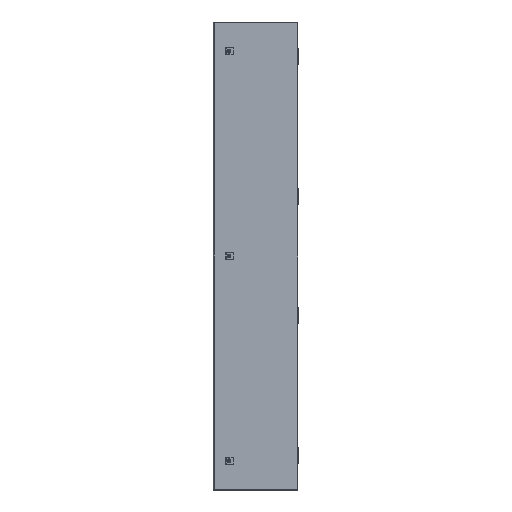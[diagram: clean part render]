
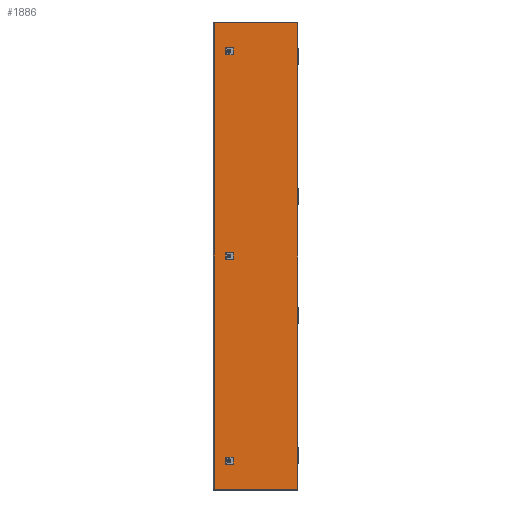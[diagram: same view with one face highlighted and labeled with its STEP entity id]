
A CAD part, left-side view. The second image highlights one B-rep face of the part: STEP entity #1886.
In plain terms, the highlighted planar face has unit normal (-1, 0, 0).
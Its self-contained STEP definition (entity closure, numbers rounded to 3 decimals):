
#1886=ADVANCED_FACE('',(#4623,#4625,#4627,#4629),#4631,.F.);
#4623=FACE_BOUND('',#4624,.T.);
#4624=EDGE_LOOP('',(#10432,#10433,#10434,#10435));
#4625=FACE_BOUND('',#4626,.T.);
#4626=EDGE_LOOP('',(#10436,#10437,#10438,#10439));
#4627=FACE_BOUND('',#4628,.T.);
#4628=EDGE_LOOP('',(#10440,#10441,#10442,#10443));
#4629=FACE_BOUND('',#4630,.T.);
#4630=EDGE_LOOP('',(#10444,#10445,#10446,#10447));
#4631=PLANE('',#4632);
#4632=AXIS2_PLACEMENT_3D('',#4633,#4634,#4635);
#4633=CARTESIAN_POINT('',(0.,0.,0.));
#4634=DIRECTION('',(1.,0.,0.));
#4635=DIRECTION('',(0.,1.,0.));
#10432=ORIENTED_EDGE('',*,*,#13034,.T.);
#10433=ORIENTED_EDGE('',*,*,#13103,.T.);
#10434=ORIENTED_EDGE('',*,*,#13038,.T.);
#10435=ORIENTED_EDGE('',*,*,#13036,.T.);
#10436=ORIENTED_EDGE('',*,*,#13104,.T.);
#10437=ORIENTED_EDGE('',*,*,#13105,.T.);
#10438=ORIENTED_EDGE('',*,*,#13106,.T.);
#10439=ORIENTED_EDGE('',*,*,#13107,.T.);
#10440=ORIENTED_EDGE('',*,*,#13108,.T.);
#10441=ORIENTED_EDGE('',*,*,#13109,.T.);
#10442=ORIENTED_EDGE('',*,*,#13110,.T.);
#10443=ORIENTED_EDGE('',*,*,#13111,.T.);
#10444=ORIENTED_EDGE('',*,*,#13112,.T.);
#10445=ORIENTED_EDGE('',*,*,#13113,.T.);
#10446=ORIENTED_EDGE('',*,*,#13114,.T.);
#10447=ORIENTED_EDGE('',*,*,#13115,.T.);
#13034=EDGE_CURVE('',#14665,#14663,#14666,.T.);
#13036=EDGE_CURVE('',#14668,#14665,#14669,.T.);
#13038=EDGE_CURVE('',#14671,#14668,#14672,.T.);
#13103=EDGE_CURVE('',#14663,#14671,#14775,.T.);
#13104=EDGE_CURVE('',#14776,#14777,#14778,.T.);
#13105=EDGE_CURVE('',#14777,#14779,#14780,.T.);
#13106=EDGE_CURVE('',#14779,#14781,#14782,.T.);
#13107=EDGE_CURVE('',#14781,#14776,#14783,.T.);
#13108=EDGE_CURVE('',#14784,#14785,#14786,.T.);
#13109=EDGE_CURVE('',#14785,#14787,#14788,.T.);
#13110=EDGE_CURVE('',#14787,#14789,#14790,.T.);
#13111=EDGE_CURVE('',#14789,#14784,#14791,.T.);
#13112=EDGE_CURVE('',#14792,#14793,#14794,.T.);
#13113=EDGE_CURVE('',#14793,#14795,#14796,.T.);
#13114=EDGE_CURVE('',#14795,#14797,#14798,.T.);
#13115=EDGE_CURVE('',#14797,#14792,#14799,.T.);
#14663=VERTEX_POINT('',#17729);
#14665=VERTEX_POINT('',#17734);
#14666=LINE('',#17735,#17736);
#14668=VERTEX_POINT('',#17742);
#14669=LINE('',#17743,#17744);
#14671=VERTEX_POINT('',#17750);
#14672=LINE('',#17751,#17752);
#14775=LINE('',#17998,#17999);
#14776=VERTEX_POINT('',#18001);
#14777=VERTEX_POINT('',#18002);
#14778=LINE('',#18003,#18004);
#14779=VERTEX_POINT('',#18006);
#14780=LINE('',#18007,#18008);
#14781=VERTEX_POINT('',#18010);
#14782=LINE('',#18011,#18012);
#14783=LINE('',#18014,#18015);
#14784=VERTEX_POINT('',#18017);
#14785=VERTEX_POINT('',#18018);
#14786=LINE('',#18019,#18020);
#14787=VERTEX_POINT('',#18022);
#14788=LINE('',#18023,#18024);
#14789=VERTEX_POINT('',#18026);
#14790=LINE('',#18027,#18028);
#14791=LINE('',#18030,#18031);
#14792=VERTEX_POINT('',#18033);
#14793=VERTEX_POINT('',#18034);
#14794=LINE('',#18035,#18036);
#14795=VERTEX_POINT('',#18038);
#14796=LINE('',#18039,#18040);
#14797=VERTEX_POINT('',#18042);
#14798=LINE('',#18043,#18044);
#14799=LINE('',#18046,#18047);
#17729=CARTESIAN_POINT('',(0.,193.2,-1082.7));
#17734=CARTESIAN_POINT('',(0.,193.2,1082.7));
#17735=CARTESIAN_POINT('',(0.,193.2,1082.7));
#17736=VECTOR('',#17737,1.);
#17737=DIRECTION('',(0.,0.,-1.));
#17742=CARTESIAN_POINT('',(0.,-193.2,1082.7));
#17743=CARTESIAN_POINT('',(0.,-193.2,1082.7));
#17744=VECTOR('',#17745,1.);
#17745=DIRECTION('',(0.,1.,0.));
#17750=CARTESIAN_POINT('',(0.,-193.2,-1082.7));
#17751=CARTESIAN_POINT('',(0.,-193.2,-1082.7));
#17752=VECTOR('',#17753,1.);
#17753=DIRECTION('',(0.,0.,1.));
#17998=CARTESIAN_POINT('',(0.,193.2,-1082.7));
#17999=VECTOR('',#18000,1.);
#18000=DIRECTION('',(0.,-1.,0.));
#18001=CARTESIAN_POINT('',(0.,112.75,-960.75));
#18002=CARTESIAN_POINT('',(0.,134.25,-960.75));
#18003=CARTESIAN_POINT('',(0.,112.75,-960.75));
#18004=VECTOR('',#18005,1.);
#18005=DIRECTION('',(0.,1.,0.));
#18006=CARTESIAN_POINT('',(0.,134.25,-939.25));
#18007=CARTESIAN_POINT('',(0.,134.25,-960.75));
#18008=VECTOR('',#18009,1.);
#18009=DIRECTION('',(0.,0.,1.));
#18010=CARTESIAN_POINT('',(0.,112.75,-939.25));
#18011=CARTESIAN_POINT('',(0.,134.25,-939.25));
#18012=VECTOR('',#18013,1.);
#18013=DIRECTION('',(0.,-1.,0.));
#18014=CARTESIAN_POINT('',(0.,112.75,-939.25));
#18015=VECTOR('',#18016,1.);
#18016=DIRECTION('',(0.,0.,-1.));
#18017=CARTESIAN_POINT('',(0.,112.75,939.25));
#18018=CARTESIAN_POINT('',(0.,134.25,939.25));
#18019=CARTESIAN_POINT('',(0.,112.75,939.25));
#18020=VECTOR('',#18021,1.);
#18021=DIRECTION('',(0.,1.,0.));
#18022=CARTESIAN_POINT('',(0.,134.25,960.75));
#18023=CARTESIAN_POINT('',(0.,134.25,939.25));
#18024=VECTOR('',#18025,1.);
#18025=DIRECTION('',(0.,0.,1.));
#18026=CARTESIAN_POINT('',(0.,112.75,960.75));
#18027=CARTESIAN_POINT('',(0.,134.25,960.75));
#18028=VECTOR('',#18029,1.);
#18029=DIRECTION('',(0.,-1.,0.));
#18030=CARTESIAN_POINT('',(0.,112.75,960.75));
#18031=VECTOR('',#18032,1.);
#18032=DIRECTION('',(0.,0.,-1.));
#18033=CARTESIAN_POINT('',(0.,112.75,-10.75));
#18034=CARTESIAN_POINT('',(0.,134.25,-10.75));
#18035=CARTESIAN_POINT('',(0.,112.75,-10.75));
#18036=VECTOR('',#18037,1.);
#18037=DIRECTION('',(0.,1.,0.));
#18038=CARTESIAN_POINT('',(0.,134.25,10.75));
#18039=CARTESIAN_POINT('',(0.,134.25,-10.75));
#18040=VECTOR('',#18041,1.);
#18041=DIRECTION('',(0.,0.,1.));
#18042=CARTESIAN_POINT('',(0.,112.75,10.75));
#18043=CARTESIAN_POINT('',(0.,134.25,10.75));
#18044=VECTOR('',#18045,1.);
#18045=DIRECTION('',(0.,-1.,0.));
#18046=CARTESIAN_POINT('',(0.,112.75,10.75));
#18047=VECTOR('',#18048,1.);
#18048=DIRECTION('',(0.,0.,-1.));
